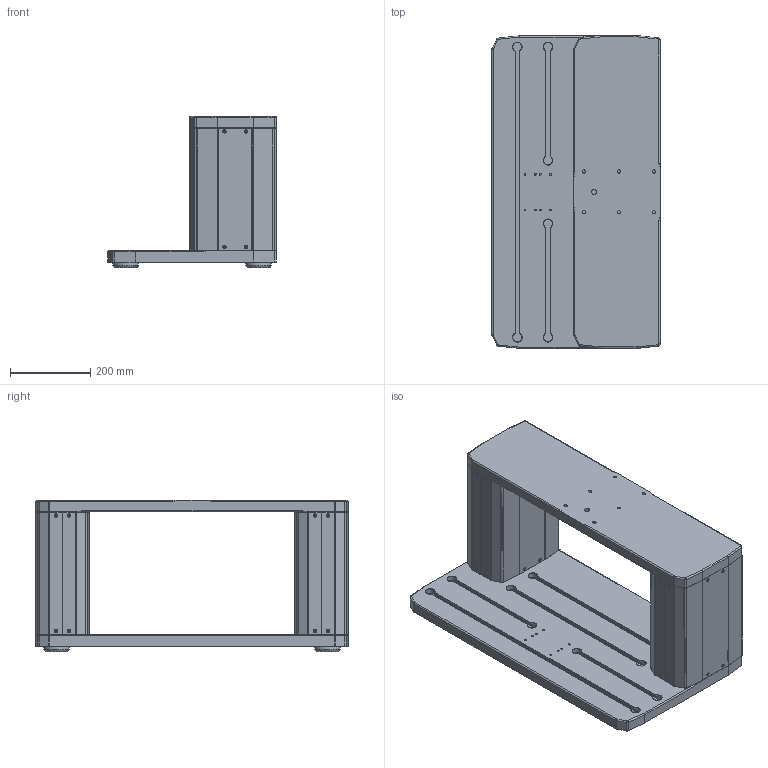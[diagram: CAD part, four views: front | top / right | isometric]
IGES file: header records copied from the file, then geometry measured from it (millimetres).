
Global section: file name: ESM303-002-2; native system: Autodesk RealDWG; preprocessor: Autodesk Translation Framework DWG producer (atf_dwg_producer); organization: unknown; date: 20211108.144614; units: inch
Bounding box: 418.59 x 776.73 x 375.67 mm (x, y, z)
Volume: 30324495.1 mm3; surface area: 2120864.7 mm2
Topology: 1 solids, 5 shells, 1762 faces, 4239 edges, 2668 vertices
Faces by surface type: bspline 1762
